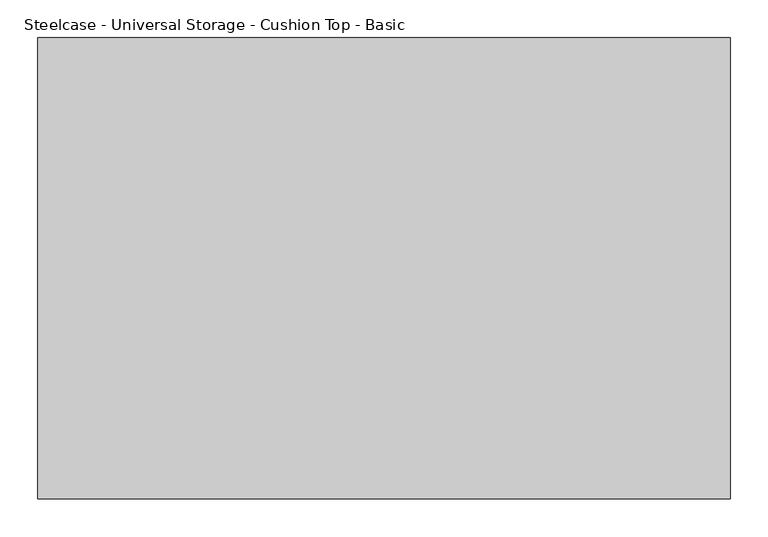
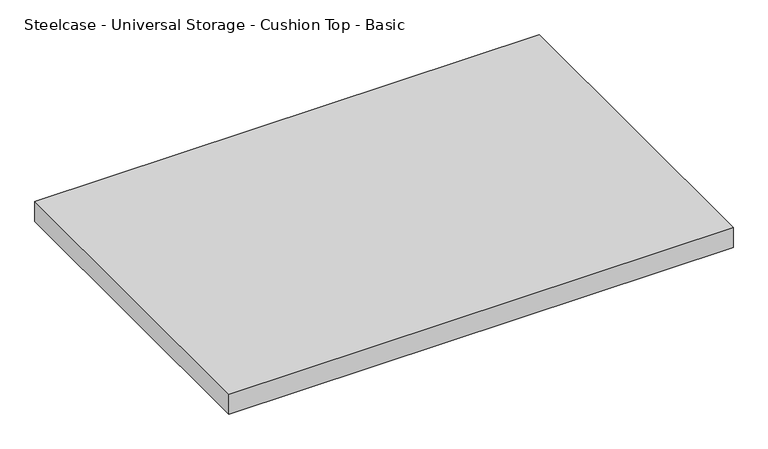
"""IFC4 building model written with IfcOpenShell, lengths in millimetres: furniture geometry, Steelcase - Universal Storage - Cushion Top - Basic : Lateral File - 24D x 36W."""

from ifc_helpers import new_model, si_unit, frame, origin, place, context, project, spatial, polyline, outline, extrude, source, transform, mapped, element, save


def steelcase_universal_storage_cushion_top_basic_42f0cc87(model_context):
    return source(origin(), model_context, "Body", "SweptSolid", [
        extrude(outline(polyline([(914.4, 0.0), (914.4, -609.6), (0.0, -609.6), (0.0, 0.0), (914.4, 0.0)])), frame((0.0, 0.0, 533.4), z_axis=(0.0, 0.0, 1.0), x_axis=(1.0, 0.0, 0.0)), (0.0, 0.0, 1.0), 38.0999971),
    ])


if __name__ == "__main__":
    model = new_model("IFC4")
    model_context = context("Model", 3, world=origin())
    ifc_project = project(units=[si_unit("LENGTHUNIT", "METRE", prefix="MILLI")], contexts=[model_context])
    site = spatial("IfcSite", under=ifc_project)
    building = spatial("IfcBuilding", under=site)
    placement = place(None, origin())
    steelcase_universal_storage_cushion_top_basic_shape = steelcase_universal_storage_cushion_top_basic_42f0cc87(model_context)
    element("IfcFurniture", 1, ObjectType="Steelcase - Universal Storage - Cushion Top - Basic : Lateral File - 24D x 36W", at=placement, inside=building, context=model_context, shape_type="MappedRepresentation", body=[
        mapped(steelcase_universal_storage_cushion_top_basic_shape, transform((0.0, 0.0, 0.0), x_axis=(1.0, 0.0, 0.0), y_axis=(0.0, 1.0, 0.0), z_axis=(0.0, 0.0, 1.0))),
    ])
    save(model, "model.ifc")
